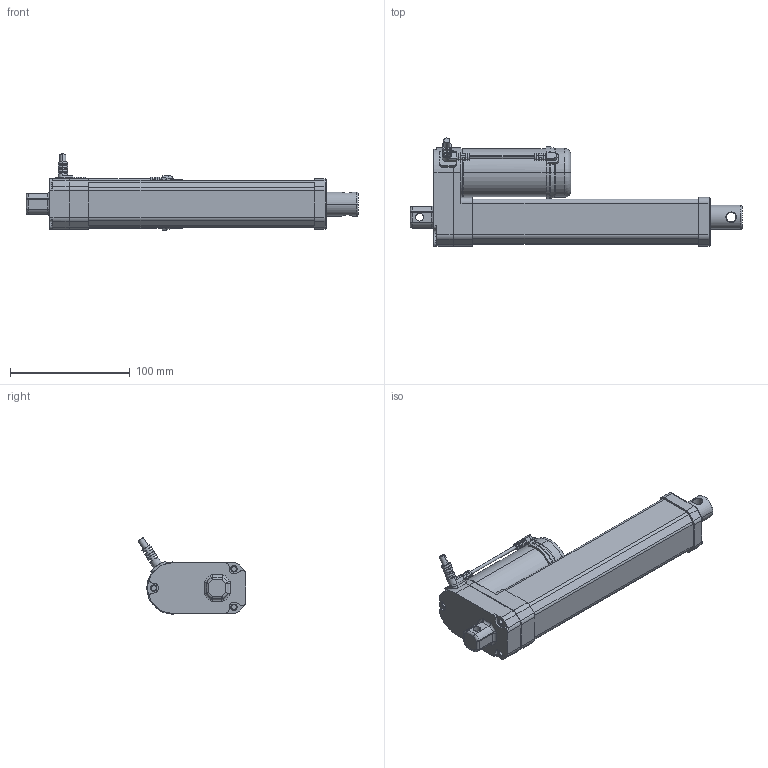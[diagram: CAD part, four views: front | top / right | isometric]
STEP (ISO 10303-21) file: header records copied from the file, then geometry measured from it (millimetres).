
FILE_DESCRIPTION((''),' ');
FILE_NAME('dszy11_150_hs2.stp',' ',('r'),('r'),' ','ACIS 14.0',' ');
FILE_SCHEMA(('automotive_design'));
Length unit declared in the file: inch
Products named in the file (3): DSZY11-HS2-150
Bounding box: 277 x 90.06 x 63.59 mm (x, y, z)
Volume: 270188 mm3; surface area: 112214.1 mm2
Topology: 3 solids, 3 shells, 466 faces, 1239 edges, 804 vertices
Faces by surface type: plane 213, cylinder 175, torus 41, cone 23, bspline 10, sphere 4
Entity records: 18855 total; most frequent: CARTESIAN_POINT 3102, DIRECTION 2630, ORIENTED_EDGE 2466, EDGE_CURVE 1233, AXIS2_PLACEMENT_3D 1011, VERTEX_POINT 804, LINE 608, VECTOR 608
